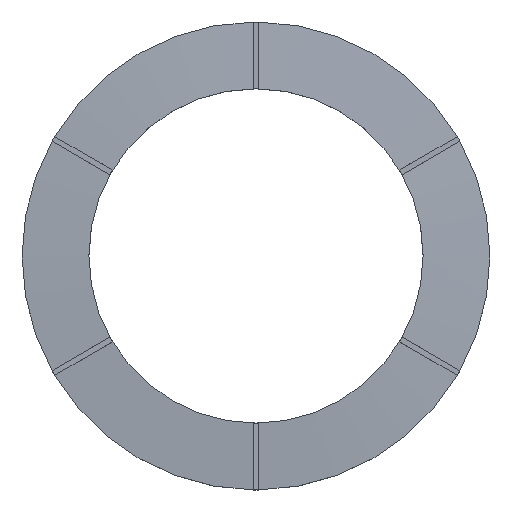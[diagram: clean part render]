
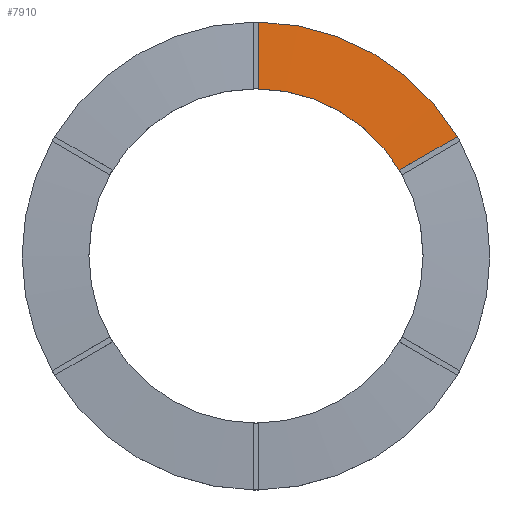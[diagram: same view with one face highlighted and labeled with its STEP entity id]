
A CAD part, top view. The second image highlights one B-rep face of the part: STEP entity #7910.
In plain terms, the highlighted conical face has half-angle 86 degrees and reference radius 17.5 mm.
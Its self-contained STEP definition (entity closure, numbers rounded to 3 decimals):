
#335 = PLANE('',#336);
#336 = AXIS2_PLACEMENT_3D('',#337,#338,#339);
#337 = CARTESIAN_POINT('',(10.725,6.423,0.597
    ));
#338 = DIRECTION('',(0.5,-0.866,0.));
#339 = DIRECTION('',(0.,0.,1.));
#2219 = PLANE('',#2220);
#2220 = AXIS2_PLACEMENT_3D('',#2221,#2222,#2223);
#2221 = CARTESIAN_POINT('',(0.2,12.5,0.597));
#2222 = DIRECTION('',(1.,0.,0.));
#2223 = DIRECTION('',(0.,0.,1.));
#2391 = VERTEX_POINT('',#2392);
#2392 = CARTESIAN_POINT('',(10.725,6.423,4.75
    ));
#2406 = PLANE('',#2407);
#2407 = AXIS2_PLACEMENT_3D('',#2408,#2409,#2410);
#2408 = CARTESIAN_POINT('',(10.725,6.423,
    0.597));
#2409 = DIRECTION('',(0.866,0.5,0.));
#2410 = DIRECTION('',(0.,0.,1.));
#2418 = EDGE_CURVE('',#2391,#2419,#2421,.T.);
#2419 = VERTEX_POINT('',#2420);
#2420 = CARTESIAN_POINT('',(15.054,8.923,
    4.4));
#2421 = SURFACE_CURVE('',#2422,(#2427,#2434),.PCURVE_S1.);
#2422 = HYPERBOLA('',#2423,0.014,0.2);
#2423 = AXIS2_PLACEMENT_3D('',#2424,#2425,#2426);
#2424 = CARTESIAN_POINT('',(-0.1,0.173,5.624));
#2425 = DIRECTION('',(0.5,-0.866,0.));
#2426 = DIRECTION('',(0.,-0.,-1.));
#2427 = PCURVE('',#335,#2428);
#2428 = DEFINITIONAL_REPRESENTATION('',(#2429),#2433);
#2429 = ( BOUNDED_CURVE() B_SPLINE_CURVE(2,(#2430,#2431,#2432),
.UNSPECIFIED.,.F.,.F.) B_SPLINE_CURVE_WITH_KNOTS((3,3),(4.828,
5.165),.PIECEWISE_BEZIER_KNOTS.) CURVE() 
GEOMETRIC_REPRESENTATION_ITEM() RATIONAL_B_SPLINE_CURVE((1.,
1.014,1.)) REPRESENTATION_ITEM('') );
#2430 = CARTESIAN_POINT('',(4.153,0.002));
#2431 = CARTESIAN_POINT('',(4.007,-2.082));
#2432 = CARTESIAN_POINT('',(3.803,-4.999));
#2433 = ( GEOMETRIC_REPRESENTATION_CONTEXT(2) 
PARAMETRIC_REPRESENTATION_CONTEXT() REPRESENTATION_CONTEXT('2D SPACE',''
  ) );
#2434 = PCURVE('',#2435,#2440);
#2435 = CONICAL_SURFACE('',#2436,17.5,1.501);
#2436 = AXIS2_PLACEMENT_3D('',#2437,#2438,#2439);
#2437 = CARTESIAN_POINT('',(0.,0.,4.4));
#2438 = DIRECTION('',(-0.,-0.,-1.));
#2439 = DIRECTION('',(1.,0.,-0.));
#2440 = DEFINITIONAL_REPRESENTATION('',(#2441),#2448);
#2441 = B_SPLINE_CURVE_WITH_KNOTS('',5,(#2442,#2443,#2444,#2445,#2446,
    #2447),.UNSPECIFIED.,.F.,.F.,(6,6),(4.828,5.165),
  .PIECEWISE_BEZIER_KNOTS.);
#2442 = CARTESIAN_POINT('',(-0.54,-0.35));
#2443 = CARTESIAN_POINT('',(-0.539,-0.291));
#2444 = CARTESIAN_POINT('',(-0.538,-0.227));
#2445 = CARTESIAN_POINT('',(-0.537,-0.158));
#2446 = CARTESIAN_POINT('',(-0.536,-0.082));
#2447 = CARTESIAN_POINT('',(-0.535,0.));
#2448 = ( GEOMETRIC_REPRESENTATION_CONTEXT(2) 
PARAMETRIC_REPRESENTATION_CONTEXT() REPRESENTATION_CONTEXT('2D SPACE',''
  ) );
#2465 = CYLINDRICAL_SURFACE('',#2466,17.5);
#2466 = AXIS2_PLACEMENT_3D('',#2467,#2468,#2469);
#2467 = CARTESIAN_POINT('',(0.,0.,4.15));
#2468 = DIRECTION('',(0.,0.,1.));
#2469 = DIRECTION('',(1.,0.,-0.));
#6014 = CYLINDRICAL_SURFACE('',#6015,12.5);
#6015 = AXIS2_PLACEMENT_3D('',#6016,#6017,#6018);
#6016 = CARTESIAN_POINT('',(0.,0.,4.75));
#6017 = DIRECTION('',(-0.,-0.,-1.));
#6018 = DIRECTION('',(1.,0.,0.));
#6081 = VERTEX_POINT('',#6082);
#6082 = CARTESIAN_POINT('',(10.825,6.25,4.75));
#6807 = VERTEX_POINT('',#6808);
#6808 = CARTESIAN_POINT('',(0.2,12.5,4.75));
#6822 = PLANE('',#6823);
#6823 = AXIS2_PLACEMENT_3D('',#6824,#6825,#6826);
#6824 = CARTESIAN_POINT('',(-0.2,12.5,0.597));
#6825 = DIRECTION('',(0.,1.,0.));
#6826 = DIRECTION('',(0.,0.,1.));
#6834 = EDGE_CURVE('',#6807,#6835,#6837,.T.);
#6835 = VERTEX_POINT('',#6836);
#6836 = CARTESIAN_POINT('',(0.2,17.499,4.4));
#6837 = SURFACE_CURVE('',#6838,(#6843,#6850),.PCURVE_S1.);
#6838 = HYPERBOLA('',#6839,0.014,0.2);
#6839 = AXIS2_PLACEMENT_3D('',#6840,#6841,#6842);
#6840 = CARTESIAN_POINT('',(0.2,0.,5.624));
#6841 = DIRECTION('',(1.,0.,0.));
#6842 = DIRECTION('',(0.,0.,-1.));
#6843 = PCURVE('',#2219,#6844);
#6844 = DEFINITIONAL_REPRESENTATION('',(#6845),#6849);
#6845 = ( BOUNDED_CURVE() B_SPLINE_CURVE(2,(#6846,#6847,#6848),
.UNSPECIFIED.,.F.,.F.) B_SPLINE_CURVE_WITH_KNOTS((3,3),(4.828,
5.165),.PIECEWISE_BEZIER_KNOTS.) CURVE() 
GEOMETRIC_REPRESENTATION_ITEM() RATIONAL_B_SPLINE_CURVE((1.,
1.014,1.)) REPRESENTATION_ITEM('') );
#6846 = CARTESIAN_POINT('',(4.153,0.002));
#6847 = CARTESIAN_POINT('',(4.007,-2.082));
#6848 = CARTESIAN_POINT('',(3.803,-4.999));
#6849 = ( GEOMETRIC_REPRESENTATION_CONTEXT(2) 
PARAMETRIC_REPRESENTATION_CONTEXT() REPRESENTATION_CONTEXT('2D SPACE',''
  ) );
#6850 = PCURVE('',#2435,#6851);
#6851 = DEFINITIONAL_REPRESENTATION('',(#6852),#6859);
#6852 = B_SPLINE_CURVE_WITH_KNOTS('',5,(#6853,#6854,#6855,#6856,#6857,
    #6858),.UNSPECIFIED.,.F.,.F.,(6,6),(4.828,5.165),
  .PIECEWISE_BEZIER_KNOTS.);
#6853 = CARTESIAN_POINT('',(-1.555,-0.35));
#6854 = CARTESIAN_POINT('',(-1.556,-0.291));
#6855 = CARTESIAN_POINT('',(-1.557,-0.227));
#6856 = CARTESIAN_POINT('',(-1.558,-0.158));
#6857 = CARTESIAN_POINT('',(-1.559,-0.082));
#6858 = CARTESIAN_POINT('',(-1.559,0.));
#6859 = ( GEOMETRIC_REPRESENTATION_CONTEXT(2) 
PARAMETRIC_REPRESENTATION_CONTEXT() REPRESENTATION_CONTEXT('2D SPACE',''
  ) );
#7889 = EDGE_CURVE('',#2419,#6835,#7890,.T.);
#7890 = SURFACE_CURVE('',#7891,(#7896,#7903),.PCURVE_S1.);
#7891 = CIRCLE('',#7892,17.5);
#7892 = AXIS2_PLACEMENT_3D('',#7893,#7894,#7895);
#7893 = CARTESIAN_POINT('',(0.,0.,4.4));
#7894 = DIRECTION('',(0.,0.,1.));
#7895 = DIRECTION('',(1.,0.,-0.));
#7896 = PCURVE('',#2465,#7897);
#7897 = DEFINITIONAL_REPRESENTATION('',(#7898),#7902);
#7898 = LINE('',#7899,#7900);
#7899 = CARTESIAN_POINT('',(0.,0.25));
#7900 = VECTOR('',#7901,1.);
#7901 = DIRECTION('',(1.,0.));
#7902 = ( GEOMETRIC_REPRESENTATION_CONTEXT(2) 
PARAMETRIC_REPRESENTATION_CONTEXT() REPRESENTATION_CONTEXT('2D SPACE',''
  ) );
#7903 = PCURVE('',#2435,#7904);
#7904 = DEFINITIONAL_REPRESENTATION('',(#7905),#7909);
#7905 = LINE('',#7906,#7907);
#7906 = CARTESIAN_POINT('',(-0.,-0.));
#7907 = VECTOR('',#7908,1.);
#7908 = DIRECTION('',(-1.,-0.));
#7909 = ( GEOMETRIC_REPRESENTATION_CONTEXT(2) 
PARAMETRIC_REPRESENTATION_CONTEXT() REPRESENTATION_CONTEXT('2D SPACE',''
  ) );
#7910 = ADVANCED_FACE('',(#7911),#2435,.T.);
#7911 = FACE_BOUND('',#7912,.T.);
#7912 = EDGE_LOOP('',(#7913,#7937,#7962,#7963,#7964,#7965));
#7913 = ORIENTED_EDGE('',*,*,#7914,.F.);
#7914 = EDGE_CURVE('',#6081,#7915,#7917,.T.);
#7915 = VERTEX_POINT('',#7916);
#7916 = CARTESIAN_POINT('',(0.,12.5,4.75));
#7917 = SURFACE_CURVE('',#7918,(#7923,#7930),.PCURVE_S1.);
#7918 = CIRCLE('',#7919,12.5);
#7919 = AXIS2_PLACEMENT_3D('',#7920,#7921,#7922);
#7920 = CARTESIAN_POINT('',(0.,0.,4.75));
#7921 = DIRECTION('',(0.,0.,1.));
#7922 = DIRECTION('',(1.,0.,-0.));
#7923 = PCURVE('',#2435,#7924);
#7924 = DEFINITIONAL_REPRESENTATION('',(#7925),#7929);
#7925 = LINE('',#7926,#7927);
#7926 = CARTESIAN_POINT('',(-0.,-0.35));
#7927 = VECTOR('',#7928,1.);
#7928 = DIRECTION('',(-1.,-0.));
#7929 = ( GEOMETRIC_REPRESENTATION_CONTEXT(2) 
PARAMETRIC_REPRESENTATION_CONTEXT() REPRESENTATION_CONTEXT('2D SPACE',''
  ) );
#7930 = PCURVE('',#6014,#7931);
#7931 = DEFINITIONAL_REPRESENTATION('',(#7932),#7936);
#7932 = LINE('',#7933,#7934);
#7933 = CARTESIAN_POINT('',(-0.,0.));
#7934 = VECTOR('',#7935,1.);
#7935 = DIRECTION('',(-1.,0.));
#7936 = ( GEOMETRIC_REPRESENTATION_CONTEXT(2) 
PARAMETRIC_REPRESENTATION_CONTEXT() REPRESENTATION_CONTEXT('2D SPACE',''
  ) );
#7937 = ORIENTED_EDGE('',*,*,#7938,.T.);
#7938 = EDGE_CURVE('',#6081,#2391,#7939,.T.);
#7939 = SURFACE_CURVE('',#7940,(#7945,#7955),.PCURVE_S1.);
#7940 = HYPERBOLA('',#7941,0.874,12.5);
#7941 = AXIS2_PLACEMENT_3D('',#7942,#7943,#7944);
#7942 = CARTESIAN_POINT('',(10.825,6.25,5.624));
#7943 = DIRECTION('',(0.866,0.5,0.));
#7944 = DIRECTION('',(0.,0.,-1.));
#7945 = PCURVE('',#2435,#7946);
#7946 = DEFINITIONAL_REPRESENTATION('',(#7947),#7954);
#7947 = B_SPLINE_CURVE_WITH_KNOTS('',5,(#7948,#7949,#7950,#7951,#7952,
    #7953),.UNSPECIFIED.,.F.,.F.,(6,6),(0.,
    0.019),.PIECEWISE_BEZIER_KNOTS.);
#7948 = CARTESIAN_POINT('',(-0.524,-0.35));
#7949 = CARTESIAN_POINT('',(-0.527,-0.35));
#7950 = CARTESIAN_POINT('',(-0.531,-0.35));
#7951 = CARTESIAN_POINT('',(-0.535,-0.35));
#7952 = CARTESIAN_POINT('',(-0.539,-0.35));
#7953 = CARTESIAN_POINT('',(-0.543,-0.349));
#7954 = ( GEOMETRIC_REPRESENTATION_CONTEXT(2) 
PARAMETRIC_REPRESENTATION_CONTEXT() REPRESENTATION_CONTEXT('2D SPACE',''
  ) );
#7955 = PCURVE('',#2406,#7956);
#7956 = DEFINITIONAL_REPRESENTATION('',(#7957),#7961);
#7957 = ( BOUNDED_CURVE() B_SPLINE_CURVE(2,(#7958,#7959,#7960),
.UNSPECIFIED.,.F.,.F.) B_SPLINE_CURVE_WITH_KNOTS((3,3),(
    0.,0.019),.PIECEWISE_BEZIER_KNOTS.) 
CURVE() GEOMETRIC_REPRESENTATION_ITEM() RATIONAL_B_SPLINE_CURVE((1.,
1.,1.)) REPRESENTATION_ITEM('') );
#7958 = CARTESIAN_POINT('',(4.153,0.2));
#7959 = CARTESIAN_POINT('',(4.153,0.08));
#7960 = CARTESIAN_POINT('',(4.153,-0.04));
#7961 = ( GEOMETRIC_REPRESENTATION_CONTEXT(2) 
PARAMETRIC_REPRESENTATION_CONTEXT() REPRESENTATION_CONTEXT('2D SPACE',''
  ) );
#7962 = ORIENTED_EDGE('',*,*,#2418,.T.);
#7963 = ORIENTED_EDGE('',*,*,#7889,.T.);
#7964 = ORIENTED_EDGE('',*,*,#6834,.F.);
#7965 = ORIENTED_EDGE('',*,*,#7966,.T.);
#7966 = EDGE_CURVE('',#6807,#7915,#7967,.T.);
#7967 = SURFACE_CURVE('',#7968,(#7973,#7983),.PCURVE_S1.);
#7968 = HYPERBOLA('',#7969,0.874,12.5);
#7969 = AXIS2_PLACEMENT_3D('',#7970,#7971,#7972);
#7970 = CARTESIAN_POINT('',(0.,12.5,5.624));
#7971 = DIRECTION('',(0.,1.,0.));
#7972 = DIRECTION('',(0.,0.,-1.));
#7973 = PCURVE('',#2435,#7974);
#7974 = DEFINITIONAL_REPRESENTATION('',(#7975),#7982);
#7975 = B_SPLINE_CURVE_WITH_KNOTS('',5,(#7976,#7977,#7978,#7979,#7980,
    #7981),.UNSPECIFIED.,.F.,.F.,(6,6),(-0.019,
    0.),.PIECEWISE_BEZIER_KNOTS.);
#7976 = CARTESIAN_POINT('',(-1.552,-0.349));
#7977 = CARTESIAN_POINT('',(-1.555,-0.35));
#7978 = CARTESIAN_POINT('',(-1.559,-0.35));
#7979 = CARTESIAN_POINT('',(-1.563,-0.35));
#7980 = CARTESIAN_POINT('',(-1.567,-0.35));
#7981 = CARTESIAN_POINT('',(-1.571,-0.35));
#7982 = ( GEOMETRIC_REPRESENTATION_CONTEXT(2) 
PARAMETRIC_REPRESENTATION_CONTEXT() REPRESENTATION_CONTEXT('2D SPACE',''
  ) );
#7983 = PCURVE('',#6822,#7984);
#7984 = DEFINITIONAL_REPRESENTATION('',(#7985),#7989);
#7985 = ( BOUNDED_CURVE() B_SPLINE_CURVE(2,(#7986,#7987,#7988),
.UNSPECIFIED.,.F.,.F.) B_SPLINE_CURVE_WITH_KNOTS((3,3),(
    -0.019,0.),.PIECEWISE_BEZIER_KNOTS.) 
CURVE() GEOMETRIC_REPRESENTATION_ITEM() RATIONAL_B_SPLINE_CURVE((1.,
1.,1.)) REPRESENTATION_ITEM('') );
#7986 = CARTESIAN_POINT('',(4.153,0.44));
#7987 = CARTESIAN_POINT('',(4.153,0.32));
#7988 = CARTESIAN_POINT('',(4.153,0.2));
#7989 = ( GEOMETRIC_REPRESENTATION_CONTEXT(2) 
PARAMETRIC_REPRESENTATION_CONTEXT() REPRESENTATION_CONTEXT('2D SPACE',''
  ) );
